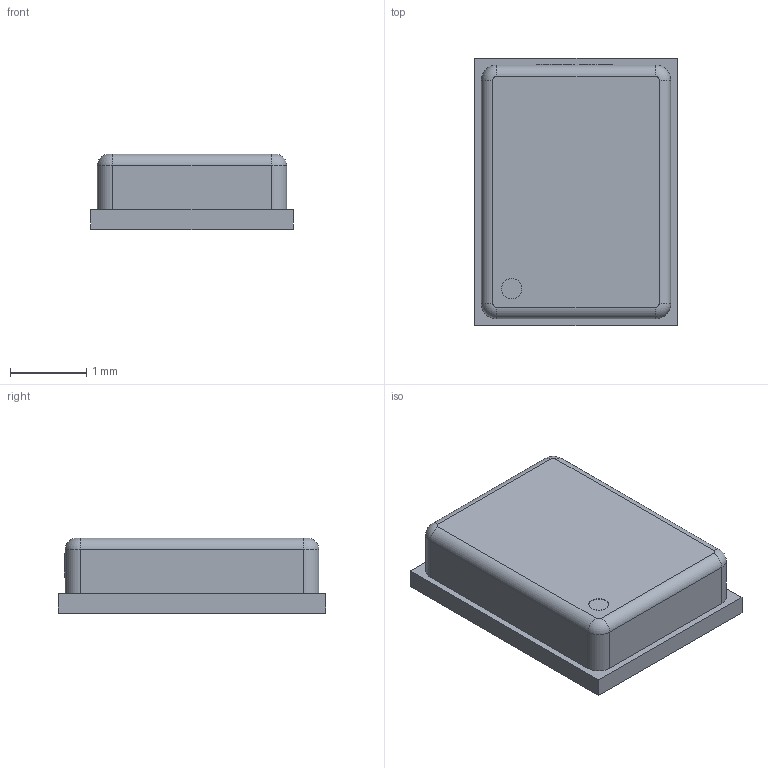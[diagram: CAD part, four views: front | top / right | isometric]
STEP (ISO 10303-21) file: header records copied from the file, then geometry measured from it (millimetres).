
FILE_DESCRIPTION (( 'STEP AP214' ), '1' );
FILE_NAME ('MIC-SMD_5P-L3.5-W2.7_IM66D130AXTMA1.STEP', '2024-12-10T15:35:28', ( '' ), ( '' ), 'SwSTEP 2.0', 'SolidWorks 2020', '' );
FILE_SCHEMA (( 'AUTOMOTIVE_DESIGN' ));
Length unit declared in the file: millimetre
Products named in the file (1): MIC-SMD_5P-L3.5-W2.7_IM66D130AXTMA1
Bounding box: 2.65 x 3.5 x 0.99 mm (x, y, z)
Volume: 8.3 mm3; surface area: 29.7 mm2
Topology: 1 solids, 1 shells, 279 faces, 739 edges, 490 vertices
Faces by surface type: plane 161, bspline 98, cylinder 16, torus 4
Entity records: 12200 total; most frequent: CARTESIAN_POINT 2815, ORIENTED_EDGE 1478, DIRECTION 939, EDGE_CURVE 739, VECTOR 503, LINE 503, VERTEX_POINT 490, EDGE_LOOP 307
